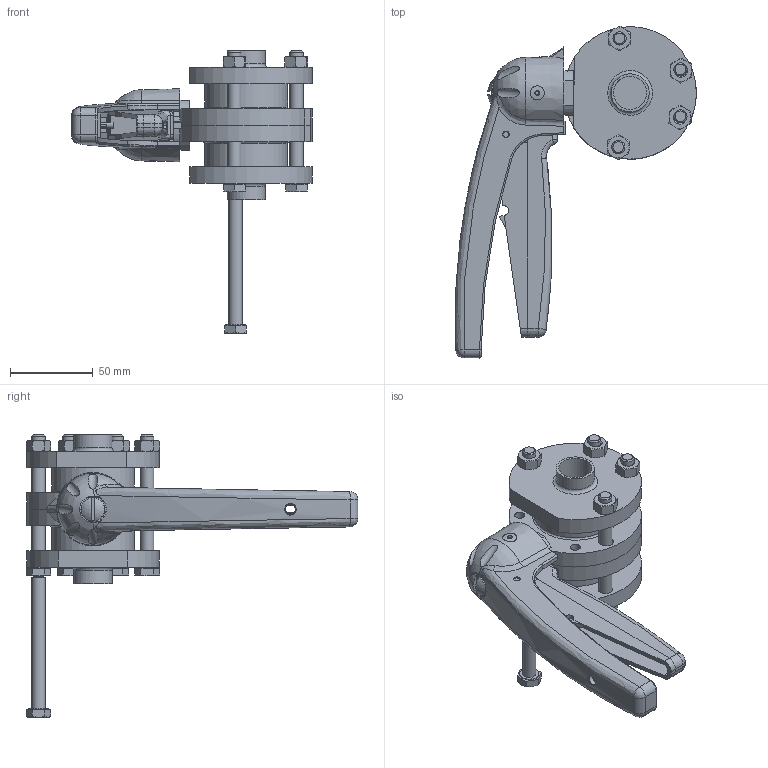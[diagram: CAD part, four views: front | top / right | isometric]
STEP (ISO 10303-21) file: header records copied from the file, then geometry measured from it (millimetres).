
FILE_DESCRIPTION(/* description */ ('VVF VALV.FARF.DN20(23X1.5) WAF4 316 EPDM LEVA 5POS.'),/* implementation_level */ '2;1');
FILE_NAME(/* name */ 'C:\_DED_PWS\MARZ-M\DB\B\EBA\BEBAC6020BEAA-00^SAGOMA.step',/* time_stamp */ '2022-03-28T12:29:04+02:00',/* author */ (''),/* organization */ (''),/* preprocessor_version */ 'ST-DEVELOPER v18.1',/* originating_system */ 'Autodesk Inventor 2022',/* authorisation */ '');
FILE_SCHEMA (('CONFIG_CONTROL_DESIGN'));
Length unit declared in the file: millimetre
Products named in the file (6): BEBAC6020BEAA; MEZZO-COR-DN025-WAFER-4; FLANGIA-DN20-23X1.5-WAFER-4; UNI 5588 - M8; Maniglia-5-posizioni-nuova-versione finale 01-2008- 25 - - 65; UNI 5739 - M8 x 80
Assembly tree (14 placements, depth 2):
  BEBAC6020BEAA
    FLANGIA-DN20-23X1.5-WAFER-4  x2
    MEZZO-COR-DN025-WAFER-4  x2
    UNI 5588 - M8  x4
    UNI 5739 - M8 x 80  x5
    Maniglia-5-posizioni-nuova-versione finale 01-2008- 25 - - 65
Bounding box: 145.38 x 200.39 x 170.6 mm (x, y, z)
Volume: 364047.4 mm3; surface area: 128037.6 mm2
Topology: 14 solids, 15 shells, 649 faces, 1584 edges, 990 vertices
Faces by surface type: plane 288, cylinder 130, cone 119, bspline 81, sphere 18, torus 13
Full cylindrical faces by diameter (mm): 4 x3, 6 x2, 6.2 x4, 6.5 x1, 6.647 x4, 8 x5, 8.5 x12, 11.63 x5, 13 x1, 14.5 x1, 20 x2, 23 x2, 50 x2
Entity records: 23832 total; most frequent: CARTESIAN_POINT 12292, ORIENTED_EDGE 2418, DIRECTION 2097, EDGE_CURVE 1209, VERTEX_POINT 763, AXIS2_PLACEMENT_3D 761, LINE 575, VECTOR 575
